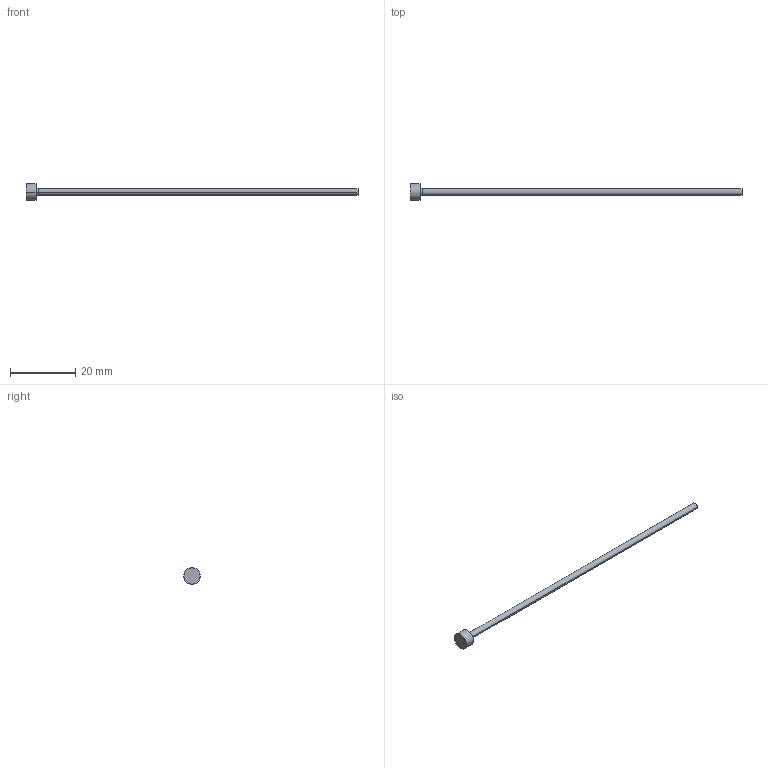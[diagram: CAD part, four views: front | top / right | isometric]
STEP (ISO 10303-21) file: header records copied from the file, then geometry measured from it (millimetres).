
FILE_DESCRIPTION (( 'STEP AP214' ), '1' );
FILE_NAME ('P6-4.STEP', '2020-03-11T16:24:16', ( '' ), ( '' ), 'SwSTEP 2.0', 'SolidWorks 2018', '' );
FILE_SCHEMA (( 'AUTOMOTIVE_DESIGN' ));
Length unit declared in the file: inch
Products named in the file (1): P6-4
Bounding box: 101.6 x 5.16 x 5.16 mm (x, y, z)
Volume: 369.2 mm3; surface area: 700.8 mm2
Topology: 1 solids, 1 shells, 13 faces, 24 edges, 14 vertices
Faces by surface type: cone 4, cylinder 4, plane 3, torus 2
Entity records: 366 total; most frequent: DIRECTION 68, CARTESIAN_POINT 52, ORIENTED_EDGE 48, AXIS2_PLACEMENT_3D 30, EDGE_CURVE 24, CIRCLE 16, VERTEX_POINT 14, EDGE_LOOP 14
